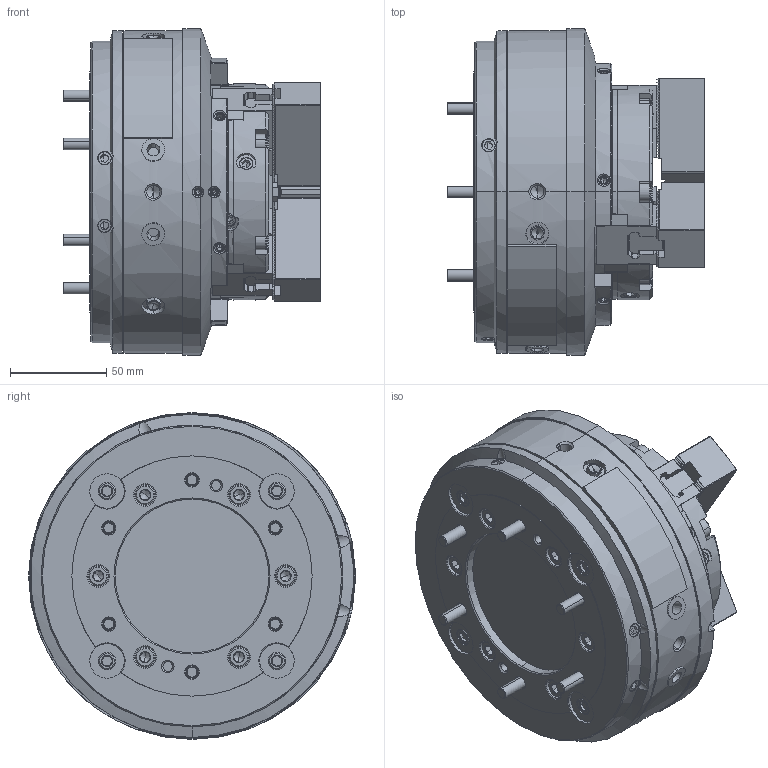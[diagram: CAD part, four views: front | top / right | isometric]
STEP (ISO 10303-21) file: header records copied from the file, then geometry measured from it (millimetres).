
FILE_DESCRIPTION (( 'STEP AP214' ), '1' );
FILE_NAME ('DEV-NRC04-UC.STEP', '2024-10-03T02:38:43', ( '' ), ( '' ), 'SwSTEP 2.0', 'SolidWorks 2022', '' );
FILE_SCHEMA (( 'AUTOMOTIVE_DESIGN' ));
Length unit declared in the file: millimetre
Products named in the file (7): Part1^DEV-NRC04-クミタテ; Copy of 0693000001^DEV-NRC04-クミタテ; Copy of 61P400832^DEV-NRC04-クミタテ; Copy of P31487^DEV-NRC04-クミタテ; Copy of 0030106100^DEV-NRC04-クミタテ; DEV-NRC04-UC; Copy of 0030108022^DEV-NRC04-クミタテ
Assembly tree (21 placements, depth 2):
  DEV-NRC04-UC
    Copy of P31487^DEV-NRC04-クミタテ  x3
    Copy of 61P400832^DEV-NRC04-クミタテ  x3
    Copy of 0030106100^DEV-NRC04-クミタテ  x6
    Copy of 0030108022^DEV-NRC04-クミタテ  x6
    Copy of 0693000001^DEV-NRC04-クミタテ  x2
    Part1^DEV-NRC04-クミタテ
Bounding box: 134.2 x 170 x 170 mm (x, y, z)
Volume: 1714035.7 mm3; surface area: 189176.3 mm2
Topology: 21 solids, 51 shells, 4001 faces, 10673 edges, 6809 vertices
Faces by surface type: plane 2372, cylinder 885, cone 610, bspline 104, torus 20, sphere 10
Entity records: 101742 total; most frequent: CARTESIAN_POINT 28972, ORIENTED_EDGE 15728, DIRECTION 13747, EDGE_CURVE 7864, VECTOR 5101, LINE 5101, VERTEX_POINT 5096, AXIS2_PLACEMENT_3D 4323
